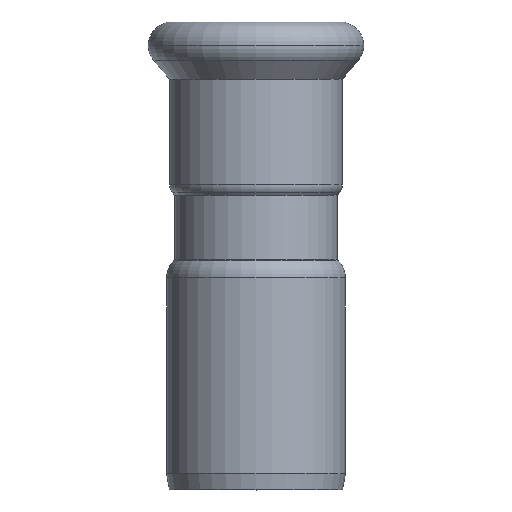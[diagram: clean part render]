
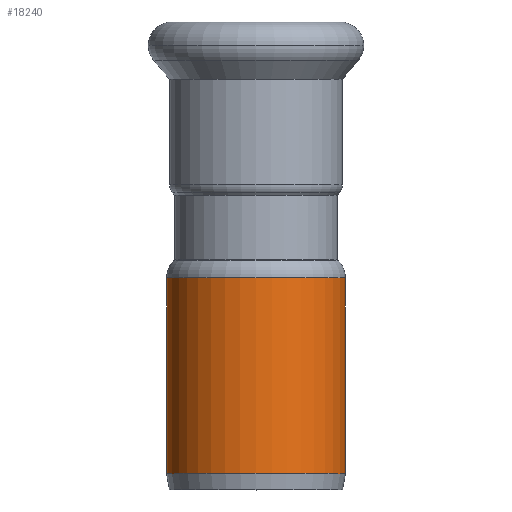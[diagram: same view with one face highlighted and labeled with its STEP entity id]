
A CAD part, top view. The second image highlights one B-rep face of the part: STEP entity #18240.
In plain terms, the highlighted cylindrical face has radius 11 mm (diameter 22 mm), a partial arc.
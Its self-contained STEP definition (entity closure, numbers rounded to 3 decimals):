
#1370=CARTESIAN_POINT('',(-213.976,30.678,0.));
#1380=VERTEX_POINT('',#1370);
#1430=CARTESIAN_POINT('',(-202.976,30.678,0.));
#1440=DIRECTION('',(0.,-1.,0.));
#1450=DIRECTION('',(-1.,0.,0.));
#1460=AXIS2_PLACEMENT_3D('',#1430,#1440,#1450);
#1470=CIRCLE('',#1460,11.);
#1480=CARTESIAN_POINT('',(-191.976,30.678,0.));
#1490=VERTEX_POINT('',#1480);
#1820=CARTESIAN_POINT('',(-191.976,6.621,0.));
#1830=VERTEX_POINT('',#1820);
#1860=CARTESIAN_POINT('',(-202.976,6.621,0.));
#1870=DIRECTION('',(0.,-1.,0.));
#1880=DIRECTION('',(-1.,0.,0.));
#1890=AXIS2_PLACEMENT_3D('',#1860,#1870,#1880);
#1900=CIRCLE('',#1890,11.);
#1910=CARTESIAN_POINT('',(-213.976,6.621,
0.));
#1920=VERTEX_POINT('',#1910);
#2850=CARTESIAN_POINT('',(-202.976,33.421,0.));
#2860=DIRECTION('',(0.,-1.,0.));
#2870=DIRECTION('',(1.,0.,0.));
#2880=AXIS2_PLACEMENT_3D('',#2850,#2860,#2870);
#2890=CYLINDRICAL_SURFACE('',#2880,11.);
#2900=CARTESIAN_POINT('',(-191.976,33.421,0.));
#2910=DIRECTION('',(0.,-1.,0.));
#2920=VECTOR('',#2910,1.);
#2930=LINE('',#2900,#2920);
#2940=EDGE_CURVE('',#1490,#1830,#2930,.T.);
#2970=CARTESIAN_POINT('',(-213.976,33.421,
0.));
#2980=DIRECTION('',(0.,-1.,0.));
#2990=VECTOR('',#2980,1.);
#3000=LINE('',#2970,#2990);
#3010=EDGE_CURVE('',#1380,#1920,#3000,.T.);
#18160=EDGE_CURVE('',#1830,#1920,#1900,.T.);
#18170=ORIENTED_EDGE('',*,*,#18160,.F.);
#18180=ORIENTED_EDGE('',*,*,#3010,.T.);
#18190=EDGE_CURVE('',#1490,#1380,#1470,.T.);
#18200=ORIENTED_EDGE('',*,*,#18190,.T.);
#18210=ORIENTED_EDGE('',*,*,#2940,.F.);
#18220=EDGE_LOOP('',(#18210,#18200,#18180,#18170));
#18230=FACE_OUTER_BOUND('',#18220,.T.);
#18240=ADVANCED_FACE('',(#18230),#2890,.T.);
